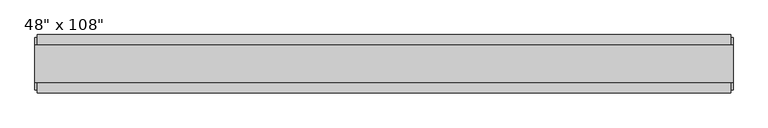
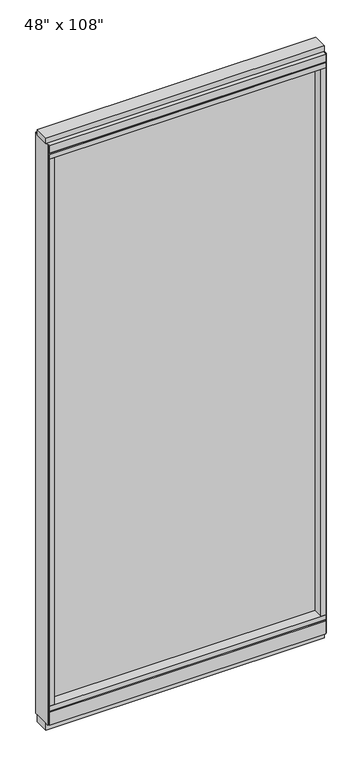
"""IFC4 building model written with IfcOpenShell, lengths in millimetres: furniture geometry."""

from ifc_helpers import new_model, si_unit, frame, origin, origin_with_axes, place, context, project, spatial, polyline, outline, extrude, source, transform, mapped, element, save


def furniture_06a94076(model_context):
    return source(origin(), model_context, "Body", "SweptSolid", [
        extrude(outline(polyline([(523.4014771, -9.5977216), (-643.4745229, -9.5977216), (-643.4745229, 0.5622784), (523.4014771, 0.5622784), (523.4014771, -9.5977216)])), frame((0.0, 0.0, 120.523), z_axis=(0.0, 0.0, 1.0), x_axis=(1.0, 0.0, 0.0)), (0.0, 0.0, 1.0), 2533.777),
        extrude(outline(polyline([(-55.3177216, 93.345), (-50.3647216, 93.345), (-50.3647216, 98.298), (41.3292784, 98.298), (41.3292784, 93.345), (46.2822784, 93.345), (46.2822784, 31.75), (-55.3177216, 31.75), (-55.3177216, 93.345)])), frame((-665.6995229, 0.0, 0.0), z_axis=(1.0, 0.0, 0.0), x_axis=(0.0, 1.0, 0.0)), (0.0, 0.0, 1.0), 1211.326),
        extrude(outline(polyline([(-665.6995229, -55.3177216), (-665.6995229, 46.2822784), (545.6264771, 46.2822784), (545.6264771, -55.3177216), (-665.6995229, -55.3177216)])), frame((0.0, 0.0, 98.298), z_axis=(0.0, 0.0, 1.0), x_axis=(1.0, 0.0, 0.0)), (0.0, 0.0, 1.0), 22.225),
        extrude(outline(polyline([(549.5634771, 27.9942784), (549.5634771, -37.0297216), (-669.6365229, -37.0297216), (-669.6365229, 27.9942784), (549.5634771, 27.9942784)])), origin_with_axes(), (0.0, 0.0, 1.0), 31.75),
        extrude(outline(polyline([(-669.6365229, -37.0297216), (-669.6365229, 27.9942784), (549.5634771, 27.9942784), (549.5634771, -37.0297216), (-669.6365229, -37.0297216)])), frame((0.0, 0.0, 2717.8), z_axis=(0.0, 0.0, 1.0), x_axis=(1.0, 0.0, 0.0)), (0.0, 0.0, 1.0), 25.4),
        extrude(outline(polyline([(-55.3177216, 2681.478), (-55.3177216, 2717.8), (46.2822784, 2717.8), (46.2822784, 2681.478), (41.3292784, 2681.478), (41.3292784, 2676.525), (-50.3647216, 2676.525), (-50.3647216, 2681.478), (-55.3177216, 2681.478)])), frame((-665.6995229, 0.0, 0.0), z_axis=(1.0, 0.0, 0.0), x_axis=(0.0, 1.0, 0.0)), (0.0, 0.0, 1.0), 1211.326),
        extrude(outline(polyline([(545.6264771, 46.2822784), (545.6264771, -55.3177216), (-665.6995229, -55.3177216), (-665.6995229, 46.2822784), (545.6264771, 46.2822784)])), frame((0.0, 0.0, 2654.3), z_axis=(0.0, 0.0, 1.0), x_axis=(1.0, 0.0, 0.0)), (0.0, 0.0, 1.0), 22.225),
        extrude(outline(polyline([(523.4014771, -55.3177216), (523.4014771, 46.2822784), (545.6264771, 46.2822784), (545.6264771, -55.3177216), (523.4014771, -55.3177216)])), frame((0.0, 0.0, 120.523), z_axis=(0.0, 0.0, 1.0), x_axis=(1.0, 0.0, 0.0)), (0.0, 0.0, 1.0), 2533.777),
        extrude(outline(polyline([(-643.4745229, -55.3177216), (-665.6995229, -55.3177216), (-665.6995229, 46.2822784), (-643.4745229, 46.2822784), (-643.4745229, -55.3177216)])), frame((0.0, 0.0, 120.523), z_axis=(0.0, 0.0, 1.0), x_axis=(1.0, 0.0, 0.0)), (0.0, 0.0, 1.0), 2533.777),
        extrude(outline(polyline([(549.5634771, -50.3647216), (545.6264771, -50.3647216), (545.6264771, 41.3292784), (549.5634771, 41.3292784), (549.5634771, -50.3647216)])), frame((0.0, 0.0, 31.75), z_axis=(0.0, 0.0, 1.0), x_axis=(1.0, 0.0, 0.0)), (0.0, 0.0, 1.0), 2686.05),
        extrude(outline(polyline([(-669.6365229, -50.3647216), (-669.6365229, 41.3292784), (-665.6995229, 41.3292784), (-665.6995229, -50.3647216), (-669.6365229, -50.3647216)])), frame((0.0, 0.0, 31.75), z_axis=(0.0, 0.0, 1.0), x_axis=(1.0, 0.0, 0.0)), (0.0, 0.0, 1.0), 2686.05),
    ])


if __name__ == "__main__":
    model = new_model("IFC4")
    model_context = context("Model", 3, world=origin())
    ifc_project = project(units=[si_unit("LENGTHUNIT", "METRE", prefix="MILLI")], contexts=[model_context])
    site = spatial("IfcSite", under=ifc_project)
    building = spatial("IfcBuilding", under=site)
    placement = place(None, origin())
    furniture_shape = furniture_06a94076(model_context)
    element("IfcFurniture", 1, ObjectType="Haworth_Enclose-Wall-Glass : 48\" x 108\"", at=placement, inside=building, context=model_context, shape_type="MappedRepresentation", body=[
        mapped(furniture_shape, transform((0.0, 0.0, 0.0), x_axis=(1.0, 0.0, 0.0), y_axis=(0.0, 1.0, 0.0), z_axis=(0.0, 0.0, 1.0))),
    ])
    save(model, "model.ifc")
